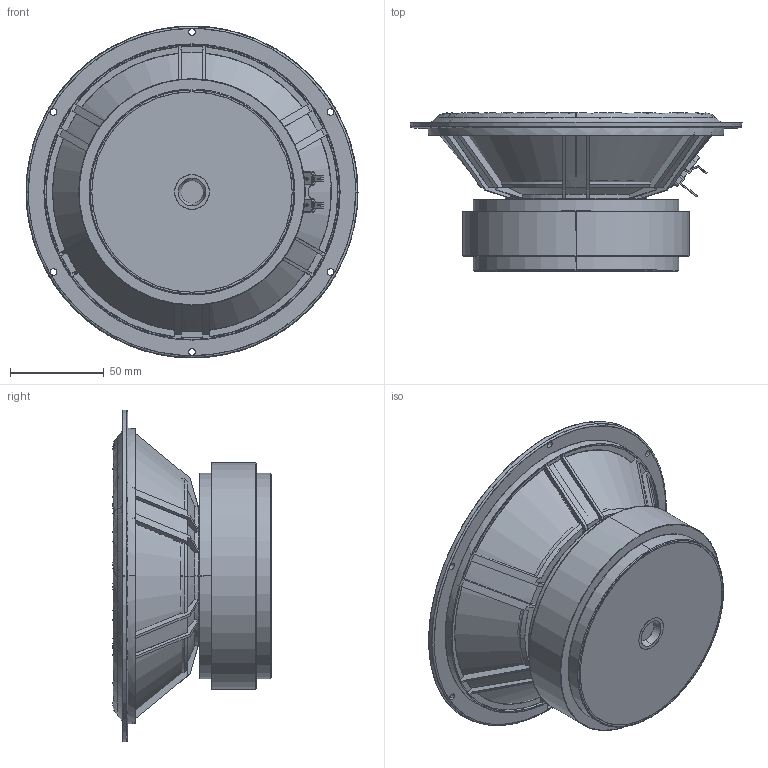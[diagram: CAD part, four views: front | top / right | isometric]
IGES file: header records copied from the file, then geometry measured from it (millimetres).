
Start section: SolidWorks IGES file using analytic representation for surfaces
Global section: file name: W:\TT\WEB 3D enheder\WEB 18W_8545K00\18w-8545k00.IGS; native system: SolidWorks 2019; preprocessor: SolidWorks 2019; author: mhn; date: 201020.112420; units: millimetre
Bounding box: 177.51 x 84.5 x 177.51 mm (x, y, z)
Surface area: 297012 mm2 (no closed solid volume)
Topology: 0 solids, 0 shells, 741 faces, 9879 edges, 9875 vertices
Faces by surface type: bspline 403, revolution 338
